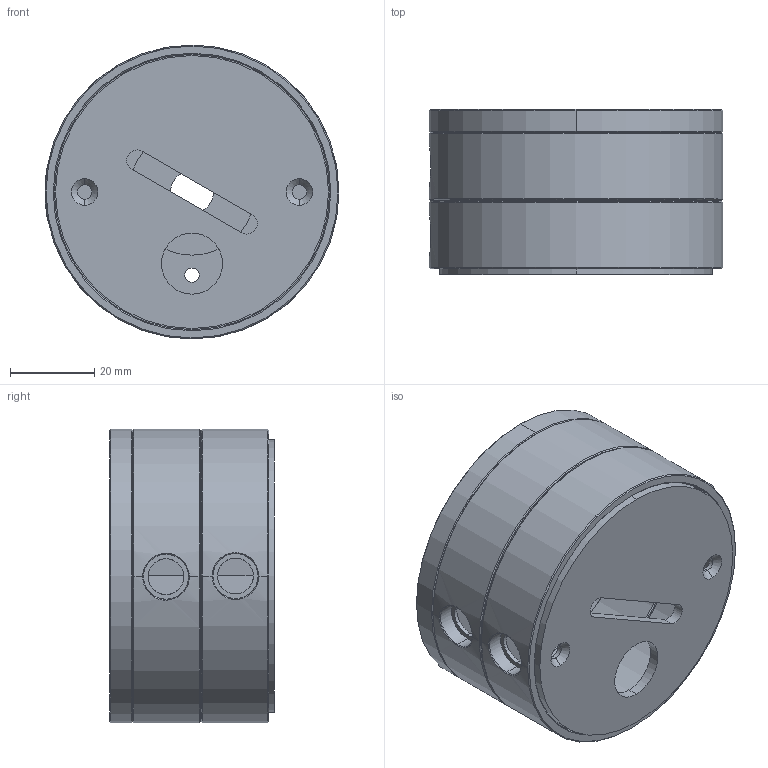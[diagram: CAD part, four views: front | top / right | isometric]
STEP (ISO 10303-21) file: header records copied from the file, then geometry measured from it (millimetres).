
FILE_DESCRIPTION (( 'STEP AP203' ), '1' );
FILE_NAME ('PENDANTSATELLXX.STEP', '2025-11-14T15:10:03', ( '' ), ( '' ), 'SwSTEP 2.0', 'SolidWorks 2024', '' );
FILE_SCHEMA (( 'CONFIG_CONTROL_DESIGN' ));
Length unit declared in the file: millimetre
Products named in the file (5): AXO063-08 - SatBase.STEP; PENDANTSATELLXX; AXO063-16 - CopriSatellite.STEP; AXO063-09 - SatRing2.STEP; SATELTURNXXXXXX.STEP
Assembly tree (5 placements, depth 3):
  PENDANTSATELLXX
    SATELTURNXXXXXX.STEP
      AXO063-08 - SatBase.STEP
      AXO063-09 - SatRing2.STEP  x2
      AXO063-16 - CopriSatellite.STEP
Bounding box: 69.8 x 39.15 x 69.8 mm (x, y, z)
Volume: 46939.5 mm3; surface area: 32873.2 mm2
Topology: 4 solids, 4 shells, 101 faces, 233 edges, 144 vertices
Faces by surface type: cylinder 47, cone 32, plane 18, bspline 4
Entity records: 4394 total; most frequent: CARTESIAN_POINT 2060, DIRECTION 415, ORIENTED_EDGE 344, AXIS2_PLACEMENT_3D 174, EDGE_CURVE 172, VERTEX_POINT 107, EDGE_LOOP 97, CIRCLE 92
